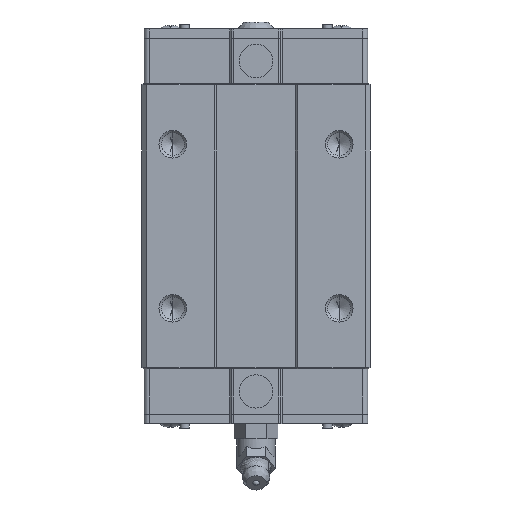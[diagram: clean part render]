
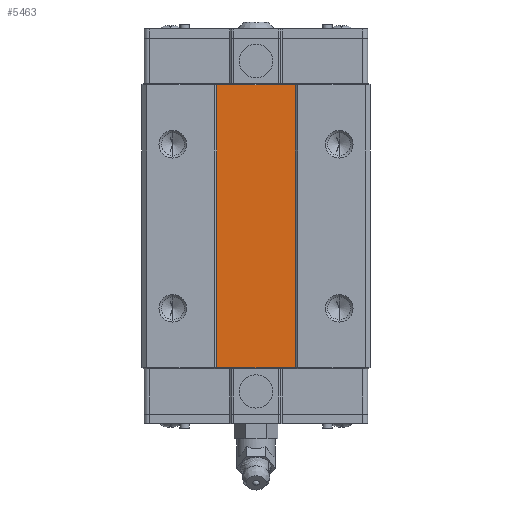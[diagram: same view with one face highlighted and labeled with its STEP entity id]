
A CAD part, front view. The second image highlights one B-rep face of the part: STEP entity #5463.
In plain terms, the highlighted planar face has unit normal (0, -1, 0).
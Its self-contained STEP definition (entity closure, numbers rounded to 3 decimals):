
#177 = CARTESIAN_POINT ( 'NONE',  ( -8.25, 0.5, 29.75 ) ) ;
#1325 = VECTOR ( 'NONE', #10899, 1000. ) ;
#1527 = VECTOR ( 'NONE', #20242, 1000. ) ;
#2578 = LINE ( 'NONE', #177, #6603 ) ;
#2840 = DIRECTION ( 'NONE',  ( 0., 1., 0. ) ) ;
#4144 = CARTESIAN_POINT ( 'NONE',  ( -8.25, 0.5, -29.75 ) ) ;
#4316 = VERTEX_POINT ( 'NONE', #12376 ) ;
#4854 = CARTESIAN_POINT ( 'NONE',  ( -8.25, 0.5, 29.75 ) ) ;
#5463 = ADVANCED_FACE ( 'NONE', ( #14313 ), #20394, .F. ) ;
#5784 = DIRECTION ( 'NONE',  ( -1., 0., 0. ) ) ;
#5829 = EDGE_CURVE ( 'NONE', #4316, #7233, #2578, .T. ) ;
#6500 = CARTESIAN_POINT ( 'NONE',  ( -8.25, 0.5, -29.75 ) ) ;
#6603 = VECTOR ( 'NONE', #13964, 1000. ) ;
#6775 = ORIENTED_EDGE ( 'NONE', *, *, #5829, .T. ) ;
#7233 = VERTEX_POINT ( 'NONE', #4854 ) ;
#7693 = EDGE_CURVE ( 'NONE', #14121, #4316, #19075, .T. ) ;
#8725 = ORIENTED_EDGE ( 'NONE', *, *, #7693, .T. ) ;
#8988 = CARTESIAN_POINT ( 'NONE',  ( -8.25, 0.5, -30. ) ) ;
#10802 = EDGE_CURVE ( 'NONE', #21125, #14121, #15370, .T. ) ;
#10814 = ORIENTED_EDGE ( 'NONE', *, *, #10802, .T. ) ;
#10899 = DIRECTION ( 'NONE',  ( 0., 0., 1. ) ) ;
#11060 = DIRECTION ( 'NONE',  ( 0., 0., 1. ) ) ;
#12376 = CARTESIAN_POINT ( 'NONE',  ( 8.25, 0.5, 29.75 ) ) ;
#13404 = EDGE_LOOP ( 'NONE', ( #22152, #10814, #8725, #6775 ) ) ;
#13634 = EDGE_CURVE ( 'NONE', #21125, #7233, #16410, .T. ) ;
#13964 = DIRECTION ( 'NONE',  ( -1., 0., 0. ) ) ;
#14121 = VERTEX_POINT ( 'NONE', #14803 ) ;
#14313 = FACE_OUTER_BOUND ( 'NONE', #13404, .T. ) ;
#14803 = CARTESIAN_POINT ( 'NONE',  ( 8.25, 0.5, -29.75 ) ) ;
#15370 = LINE ( 'NONE', #6500, #1527 ) ;
#16410 = LINE ( 'NONE', #8988, #1325 ) ;
#17215 = VECTOR ( 'NONE', #11060, 1000. ) ;
#19075 = LINE ( 'NONE', #20861, #17215 ) ;
#19210 = CARTESIAN_POINT ( 'NONE',  ( -8.25, 0.5, -30. ) ) ;
#20242 = DIRECTION ( 'NONE',  ( 1., 0., 0. ) ) ;
#20394 = PLANE ( 'NONE',  #22691 ) ;
#20861 = CARTESIAN_POINT ( 'NONE',  ( 8.25, 0.5, -30. ) ) ;
#21125 = VERTEX_POINT ( 'NONE', #4144 ) ;
#22152 = ORIENTED_EDGE ( 'NONE', *, *, #13634, .F. ) ;
#22691 = AXIS2_PLACEMENT_3D ( 'NONE', #19210, #2840, #5784 ) ;
